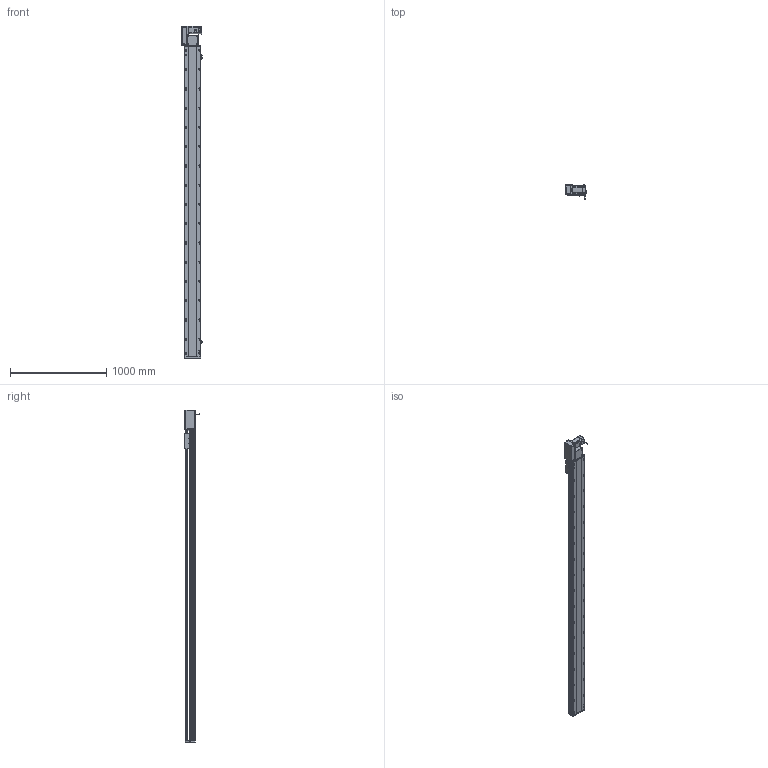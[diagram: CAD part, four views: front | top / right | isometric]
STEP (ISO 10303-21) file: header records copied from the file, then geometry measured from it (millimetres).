
FILE_DESCRIPTION (( 'STEP AP214' ), '1' );
FILE_NAME ('RTB17S-XX-2950-L-M75-C4.STEP', '2025-12-12T00:24:35', ( '' ), ( '' ), 'SwSTEP 2.0', 'SolidWorks 2018', '' );
FILE_SCHEMA (( 'AUTOMOTIVE_DESIGN' ));
Length unit declared in the file: millimetre
Products named in the file (15): RTB17S-賑釱^RTB17S-XX-XX-L-M75-C4; RTB22S-GY-005P^RTB17S-L-々湍釱蚾饜-750W_RTB17S-XX-XX-L-M75-C4; RTB17S-L-々湍釱蚾饜-750W^RTB17S-XX-XX-L-M75-C4; RTB22S-GY-018P^RTB17S-L-々湍釱蚾饜-750W_RTB17S-XX-XX-L-M75-C4; RTB17S-L-004-賑釱^RTB17S-賑釱_RTB17S-XX-XX-L-M75-C4; RTB17S-L-007奻裔^RTB17S-XX-XX-L-M75-C4; RTB22S-GY-008-M75--萇儂啣^RTB17S-L-々湍釱蚾饜-750W_RTB17S-XX-XX-L-M75-C4; EE672^RTB17S-XX-XX-L-M75-C4; RTB22S-GY-017P^RTB17S-L-々湍釱蚾饜-750W_RTB17S-XX-XX-L-M75-C4; 750W萇儂^RTB17S-XX-XX-L-M75-C4; RMP17S-L-014-T20-P75--々湍釱^RTB17S-L-々湍釱蚾饜-750W_RTB17S-XX-XX-L-M75-C4; RTB17S-L-001-耜醱啣^RTB17S-XX-XX-L-M75-C4; RTH13-BL-012覜茼え俋离^RTB17S-賑釱_RTB17S-XX-XX-L-M75-C4; RTB17S-XX-2950-L-M75-C4; RTB17-R-011菁釱^RTB17S-XX-XX-L-M75-C4
Assembly tree (17 placements, depth 3):
  RTB17S-XX-2950-L-M75-C4
    RTB17-R-011菁釱^RTB17S-XX-XX-L-M75-C4
    EE672^RTB17S-XX-XX-L-M75-C4  x3
    RTB17S-L-001-耜醱啣^RTB17S-XX-XX-L-M75-C4
    RTB17S-賑釱^RTB17S-XX-XX-L-M75-C4
      RTB17S-L-004-賑釱^RTB17S-賑釱_RTB17S-XX-XX-L-M75-C4
      RTH13-BL-012覜茼え俋离^RTB17S-賑釱_RTB17S-XX-XX-L-M75-C4
    RTB17S-L-007奻裔^RTB17S-XX-XX-L-M75-C4
    750W萇儂^RTB17S-XX-XX-L-M75-C4
    RTB17S-L-々湍釱蚾饜-750W^RTB17S-XX-XX-L-M75-C4
      RMP17S-L-014-T20-P75--々湍釱^RTB17S-L-々湍釱蚾饜-750W_RTB17S-XX-XX-L-M75-C4
      RTB22S-GY-005P^RTB17S-L-々湍釱蚾饜-750W_RTB17S-XX-XX-L-M75-C4
      RTB22S-GY-017P^RTB17S-L-々湍釱蚾饜-750W_RTB17S-XX-XX-L-M75-C4  x2
      RTB22S-GY-008-M75--萇儂啣^RTB17S-L-々湍釱蚾饜-750W_RTB17S-XX-XX-L-M75-C4
      RTB22S-GY-018P^RTB17S-L-々湍釱蚾饜-750W_RTB17S-XX-XX-L-M75-C4
Bounding box: 210.4 x 152.7 x 3449 mm (x, y, z)
Volume: 24390898.8 mm3; surface area: 4466161 mm2
Topology: 17 solids, 17 shells, 2249 faces, 6322 edges, 4094 vertices
Faces by surface type: plane 990, cylinder 843, bspline 294, cone 110, sphere 8, torus 4
Entity records: 65782 total; most frequent: CARTESIAN_POINT 19586, ORIENTED_EDGE 9488, DIRECTION 8762, EDGE_CURVE 4744, AXIS2_PLACEMENT_3D 3114, VERTEX_POINT 3098, VECTOR 2534, LINE 2534
